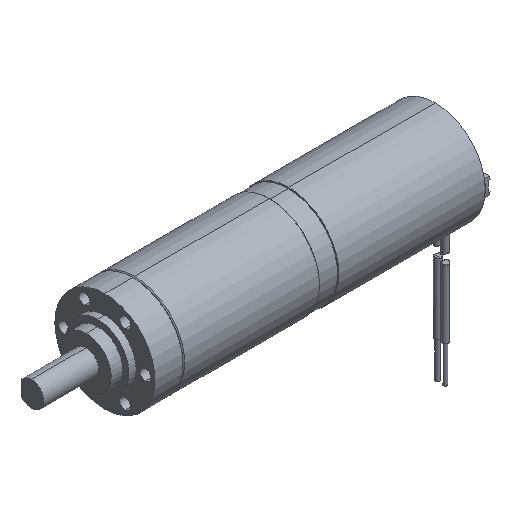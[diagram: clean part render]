
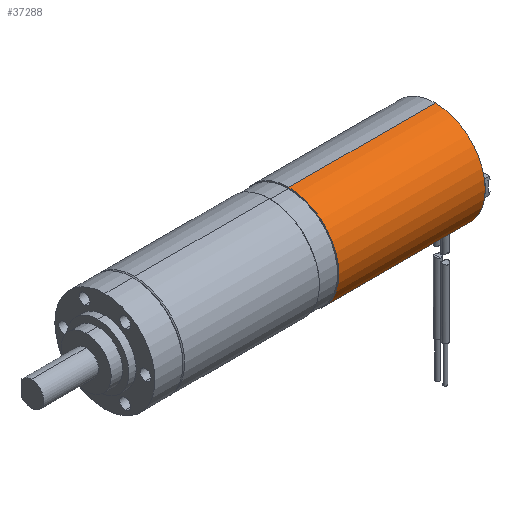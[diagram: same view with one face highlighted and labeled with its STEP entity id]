
A CAD part, isometric view. The second image highlights one B-rep face of the part: STEP entity #37288.
In plain terms, the highlighted cylindrical face has radius 8 mm (diameter 16 mm), a partial arc.
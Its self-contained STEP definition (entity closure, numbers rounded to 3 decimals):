
#1274 = CIRCLE ( 'NONE', #13340, 8. ) ;
#2750 = CARTESIAN_POINT ( 'NONE',  ( 14.8, 0., -8. ) ) ;
#4140 = VERTEX_POINT ( 'NONE', #27060 ) ;
#4348 = DIRECTION ( 'NONE',  ( -1., 0., 0. ) ) ;
#4725 = EDGE_CURVE ( 'NONE', #4140, #42880, #11910, .T. ) ;
#5335 = VERTEX_POINT ( 'NONE', #41136 ) ;
#5902 = DIRECTION ( 'NONE',  ( -1., 0., 0. ) ) ;
#7469 = CARTESIAN_POINT ( 'NONE',  ( 14.8, 0., 8. ) ) ;
#7769 = ORIENTED_EDGE ( 'NONE', *, *, #4725, .F. ) ;
#11910 = LINE ( 'NONE', #2750, #20853 ) ;
#12138 = FACE_OUTER_BOUND ( 'NONE', #22274, .T. ) ;
#13340 = AXIS2_PLACEMENT_3D ( 'NONE', #28491, #5902, #32295 ) ;
#15117 = DIRECTION ( 'NONE',  ( 1., 0., 0. ) ) ;
#17011 = ORIENTED_EDGE ( 'NONE', *, *, #22979, .T. ) ;
#18851 = AXIS2_PLACEMENT_3D ( 'NONE', #37746, #15117, #41547 ) ;
#19517 = DIRECTION ( 'NONE',  ( 0., 0., 1. ) ) ;
#20853 = VECTOR ( 'NONE', #47965, 1000. ) ;
#21462 = CIRCLE ( 'NONE', #18851, 8. ) ;
#22274 = EDGE_LOOP ( 'NONE', ( #7769, #17011, #37354, #39354 ) ) ;
#22979 = EDGE_CURVE ( 'NONE', #4140, #40670, #1274, .T. ) ;
#23210 = EDGE_CURVE ( 'NONE', #40670, #5335, #27768, .T. ) ;
#27060 = CARTESIAN_POINT ( 'NONE',  ( 26.5, 0., -8. ) ) ;
#27536 = CYLINDRICAL_SURFACE ( 'NONE', #41423, 8. ) ;
#27768 = LINE ( 'NONE', #7469, #46673 ) ;
#28491 = CARTESIAN_POINT ( 'NONE',  ( 26.5, 0., 0. ) ) ;
#29881 = CARTESIAN_POINT ( 'NONE',  ( 3.1, 0., -8. ) ) ;
#30995 = CARTESIAN_POINT ( 'NONE',  ( 26.5, 0., 8. ) ) ;
#32295 = DIRECTION ( 'NONE',  ( 0., 0., 1. ) ) ;
#33912 = DIRECTION ( 'NONE',  ( -1., 0., 0. ) ) ;
#37288 = ADVANCED_FACE ( 'NONE', ( #12138 ), #27536, .T. ) ;
#37354 = ORIENTED_EDGE ( 'NONE', *, *, #23210, .T. ) ;
#37746 = CARTESIAN_POINT ( 'NONE',  ( 3.1, 0., 0. ) ) ;
#39354 = ORIENTED_EDGE ( 'NONE', *, *, #40526, .T. ) ;
#40526 = EDGE_CURVE ( 'NONE', #5335, #42880, #21462, .T. ) ;
#40670 = VERTEX_POINT ( 'NONE', #30995 ) ;
#41136 = CARTESIAN_POINT ( 'NONE',  ( 3.1, 0., 8. ) ) ;
#41423 = AXIS2_PLACEMENT_3D ( 'NONE', #42128, #4348, #19517 ) ;
#41547 = DIRECTION ( 'NONE',  ( 0., 0., 1. ) ) ;
#42128 = CARTESIAN_POINT ( 'NONE',  ( 14.8, 0., 0. ) ) ;
#42880 = VERTEX_POINT ( 'NONE', #29881 ) ;
#46673 = VECTOR ( 'NONE', #33912, 1000. ) ;
#47965 = DIRECTION ( 'NONE',  ( -1., 0., 0. ) ) ;
